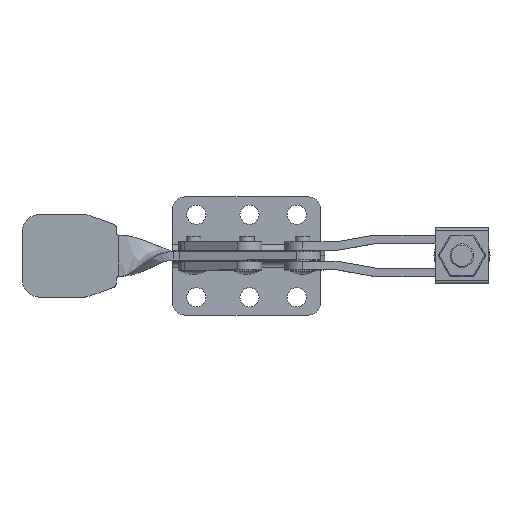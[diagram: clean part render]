
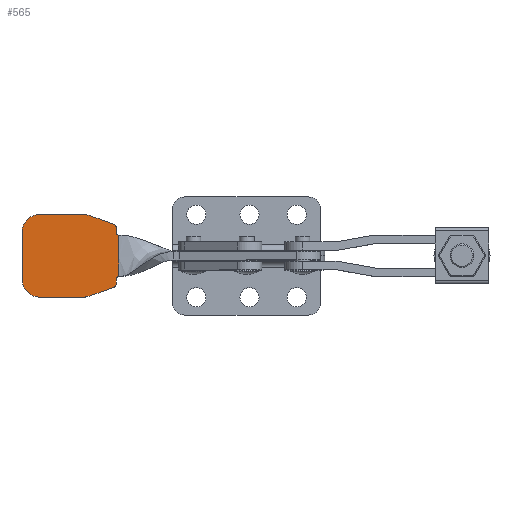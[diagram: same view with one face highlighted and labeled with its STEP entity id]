
A CAD part, top view. The second image highlights one B-rep face of the part: STEP entity #565.
In plain terms, the highlighted planar face has unit normal (0, 0, 1).
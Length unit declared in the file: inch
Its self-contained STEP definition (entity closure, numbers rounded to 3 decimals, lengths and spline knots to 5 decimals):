
#231=PLANE('',#4524);
#363=B_SPLINE_CURVE_WITH_KNOTS('',3,(#6415,#6416,#6417,#6418),.UNSPECIFIED.,
.F.,.F.,(4,4),(0.,1.),.UNSPECIFIED.);
#364=B_SPLINE_CURVE_WITH_KNOTS('',3,(#6451,#6452,#6453,#6454),.UNSPECIFIED.,
.F.,.F.,(4,4),(0.,1.),.UNSPECIFIED.);
#565=ADVANCED_FACE('',(#945),#231,.F.);
#945=FACE_OUTER_BOUND('',#1175,.T.);
#1175=EDGE_LOOP('',(#2193,#2194,#2195,#2196,#2197,#2198,#2199,#2200,#2201,
#2202,#2203,#2204,#2205,#2206,#2207,#2208,#2209));
#1535=LINE('',#6423,#1845);
#1536=LINE('',#6427,#1846);
#1537=LINE('',#6431,#1847);
#1538=LINE('',#6435,#1848);
#1539=LINE('',#6439,#1849);
#1540=LINE('',#6443,#1850);
#1541=LINE('',#6447,#1851);
#1845=VECTOR('',#5055,1.);
#1846=VECTOR('',#5058,1.);
#1847=VECTOR('',#5061,1.);
#1848=VECTOR('',#5064,1.);
#1849=VECTOR('',#5067,1.);
#1850=VECTOR('',#5070,1.);
#1851=VECTOR('',#5073,1.);
#2193=ORIENTED_EDGE('',*,*,#3724,.F.);
#2194=ORIENTED_EDGE('',*,*,#3725,.F.);
#2195=ORIENTED_EDGE('',*,*,#3726,.F.);
#2196=ORIENTED_EDGE('',*,*,#3727,.T.);
#2197=ORIENTED_EDGE('',*,*,#3728,.F.);
#2198=ORIENTED_EDGE('',*,*,#3729,.T.);
#2199=ORIENTED_EDGE('',*,*,#3730,.F.);
#2200=ORIENTED_EDGE('',*,*,#3731,.T.);
#2201=ORIENTED_EDGE('',*,*,#3732,.T.);
#2202=ORIENTED_EDGE('',*,*,#3733,.T.);
#2203=ORIENTED_EDGE('',*,*,#3734,.T.);
#2204=ORIENTED_EDGE('',*,*,#3735,.T.);
#2205=ORIENTED_EDGE('',*,*,#3736,.T.);
#2206=ORIENTED_EDGE('',*,*,#3737,.T.);
#2207=ORIENTED_EDGE('',*,*,#3738,.F.);
#2208=ORIENTED_EDGE('',*,*,#3739,.F.);
#2209=ORIENTED_EDGE('',*,*,#3740,.F.);
#3312=VERTEX_POINT('',#6419);
#3313=VERTEX_POINT('',#6420);
#3314=VERTEX_POINT('',#6422);
#3315=VERTEX_POINT('',#6424);
#3316=VERTEX_POINT('',#6426);
#3317=VERTEX_POINT('',#6428);
#3318=VERTEX_POINT('',#6430);
#3319=VERTEX_POINT('',#6432);
#3320=VERTEX_POINT('',#6434);
#3321=VERTEX_POINT('',#6436);
#3322=VERTEX_POINT('',#6438);
#3323=VERTEX_POINT('',#6440);
#3324=VERTEX_POINT('',#6442);
#3325=VERTEX_POINT('',#6444);
#3326=VERTEX_POINT('',#6446);
#3327=VERTEX_POINT('',#6448);
#3328=VERTEX_POINT('',#6450);
#3724=EDGE_CURVE('',#3312,#3313,#363,.T.);
#3725=EDGE_CURVE('',#3314,#3312,#4288,.T.);
#3726=EDGE_CURVE('',#3315,#3314,#1535,.T.);
#3727=EDGE_CURVE('',#3315,#3316,#4289,.T.);
#3728=EDGE_CURVE('',#3317,#3316,#1536,.T.);
#3729=EDGE_CURVE('',#3317,#3318,#4290,.T.);
#3730=EDGE_CURVE('',#3319,#3318,#1537,.T.);
#3731=EDGE_CURVE('',#3319,#3320,#4291,.T.);
#3732=EDGE_CURVE('',#3320,#3321,#1538,.T.);
#3733=EDGE_CURVE('',#3321,#3322,#4292,.T.);
#3734=EDGE_CURVE('',#3322,#3323,#1539,.T.);
#3735=EDGE_CURVE('',#3323,#3324,#4293,.T.);
#3736=EDGE_CURVE('',#3324,#3325,#1540,.T.);
#3737=EDGE_CURVE('',#3325,#3326,#4294,.T.);
#3738=EDGE_CURVE('',#3327,#3326,#1541,.T.);
#3739=EDGE_CURVE('',#3328,#3327,#4295,.T.);
#3740=EDGE_CURVE('',#3313,#3328,#364,.T.);
#4288=CIRCLE('',#4516,0.025);
#4289=CIRCLE('',#4517,0.05);
#4290=CIRCLE('',#4518,0.187);
#4291=CIRCLE('',#4519,0.187);
#4292=CIRCLE('',#4520,0.187);
#4293=CIRCLE('',#4521,0.187);
#4294=CIRCLE('',#4522,0.05);
#4295=CIRCLE('',#4523,0.025);
#4516=AXIS2_PLACEMENT_3D('',#6421,#5053,#5054);
#4517=AXIS2_PLACEMENT_3D('',#6425,#5056,#5057);
#4518=AXIS2_PLACEMENT_3D('',#6429,#5059,#5060);
#4519=AXIS2_PLACEMENT_3D('',#6433,#5062,#5063);
#4520=AXIS2_PLACEMENT_3D('',#6437,#5065,#5066);
#4521=AXIS2_PLACEMENT_3D('',#6441,#5068,#5069);
#4522=AXIS2_PLACEMENT_3D('',#6445,#5071,#5072);
#4523=AXIS2_PLACEMENT_3D('',#6449,#5074,#5075);
#4524=AXIS2_PLACEMENT_3D('',#6455,#5076,#5077);
#5053=DIRECTION('',(0.,0.,1.));
#5054=DIRECTION('',(0.,1.,0.));
#5055=DIRECTION('',(0.,-1.,0.));
#5056=DIRECTION('',(0.,0.,1.));
#5057=DIRECTION('',(0.,1.,0.));
#5058=DIRECTION('',(0.94,-0.342,0.));
#5059=DIRECTION('',(0.,0.,1.));
#5060=DIRECTION('',(0.,1.,0.));
#5061=DIRECTION('',(1.,0.,0.));
#5062=DIRECTION('',(0.,0.,1.));
#5063=DIRECTION('',(0.,1.,0.));
#5064=DIRECTION('',(0.,-1.,0.));
#5065=DIRECTION('',(0.,0.,1.));
#5066=DIRECTION('',(0.,1.,0.));
#5067=DIRECTION('',(1.,0.,0.));
#5068=DIRECTION('',(0.,0.,1.));
#5069=DIRECTION('',(0.,1.,0.));
#5070=DIRECTION('',(0.94,0.342,0.));
#5071=DIRECTION('',(0.,0.,1.));
#5072=DIRECTION('',(0.,1.,0.));
#5073=DIRECTION('',(0.,-1.,0.));
#5074=DIRECTION('',(0.,0.,1.));
#5075=DIRECTION('',(0.,1.,0.));
#5076=DIRECTION('',(0.,0.,-1.));
#5077=DIRECTION('',(0.,1.,0.));
#6415=CARTESIAN_POINT('',(-0.66244,0.2184,0.82624));
#6416=CARTESIAN_POINT('',(-0.66244,0.13899,0.82624));
#6417=CARTESIAN_POINT('',(-0.66244,0.05958,0.82624));
#6418=CARTESIAN_POINT('',(-0.66244,-0.01983,0.82624));
#6419=CARTESIAN_POINT('',(-0.66244,0.2184,0.82624));
#6420=CARTESIAN_POINT('',(-0.66244,-0.01983,0.82624));
#6421=CARTESIAN_POINT('',(-0.66244,0.2434,0.82624));
#6422=CARTESIAN_POINT('',(-0.68744,0.2434,0.82624));
#6423=CARTESIAN_POINT('',(-0.68744,0.28847,0.82624));
#6424=CARTESIAN_POINT('',(-0.68744,0.28847,0.82624));
#6425=CARTESIAN_POINT('',(-0.73744,0.28847,0.82624));
#6426=CARTESIAN_POINT('',(-0.72034,0.33545,0.82624));
#6427=CARTESIAN_POINT('',(-0.96946,0.42612,0.82624));
#6428=CARTESIAN_POINT('',(-0.96946,0.42612,0.82624));
#6429=CARTESIAN_POINT('',(-1.03342,0.2504,0.82624));
#6430=CARTESIAN_POINT('',(-1.03342,0.4374,0.82624));
#6431=CARTESIAN_POINT('',(-1.50044,0.4374,0.82624));
#6432=CARTESIAN_POINT('',(-1.50044,0.4374,0.82624));
#6433=CARTESIAN_POINT('',(-1.50044,0.2504,0.82624));
#6434=CARTESIAN_POINT('',(-1.68744,0.2504,0.82624));
#6435=CARTESIAN_POINT('',(-1.68744,3.7814,0.82624));
#6436=CARTESIAN_POINT('',(-1.68744,-0.2496,0.82624));
#6437=CARTESIAN_POINT('',(-1.50044,-0.2496,0.82624));
#6438=CARTESIAN_POINT('',(-1.50044,-0.4366,0.82624));
#6439=CARTESIAN_POINT('',(-1.50044,-0.4366,0.82624));
#6440=CARTESIAN_POINT('',(-1.03342,-0.4366,0.82624));
#6441=CARTESIAN_POINT('',(-1.03342,-0.2496,0.82624));
#6442=CARTESIAN_POINT('',(-0.96946,-0.42532,0.82624));
#6443=CARTESIAN_POINT('',(-0.96946,-0.42532,0.82624));
#6444=CARTESIAN_POINT('',(-0.72034,-0.33465,0.82624));
#6445=CARTESIAN_POINT('',(-0.73744,-0.28767,0.82624));
#6446=CARTESIAN_POINT('',(-0.68744,-0.28767,0.82624));
#6447=CARTESIAN_POINT('',(-0.68744,-0.2436,0.82624));
#6448=CARTESIAN_POINT('',(-0.68744,-0.2436,0.82624));
#6449=CARTESIAN_POINT('',(-0.66244,-0.2436,0.82624));
#6450=CARTESIAN_POINT('',(-0.66244,-0.2186,0.82624));
#6451=CARTESIAN_POINT('',(-0.66244,-0.01983,0.82624));
#6452=CARTESIAN_POINT('',(-0.66244,-0.08609,0.82624));
#6453=CARTESIAN_POINT('',(-0.66244,-0.15234,0.82624));
#6454=CARTESIAN_POINT('',(-0.66244,-0.2186,0.82624));
#6455=CARTESIAN_POINT('',(-1.68744,3.7814,0.82624));
